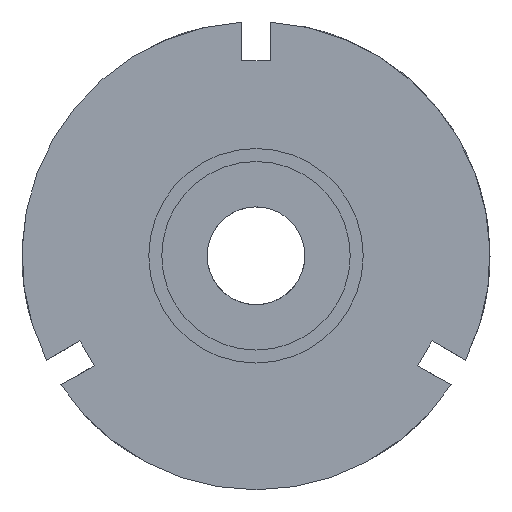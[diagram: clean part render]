
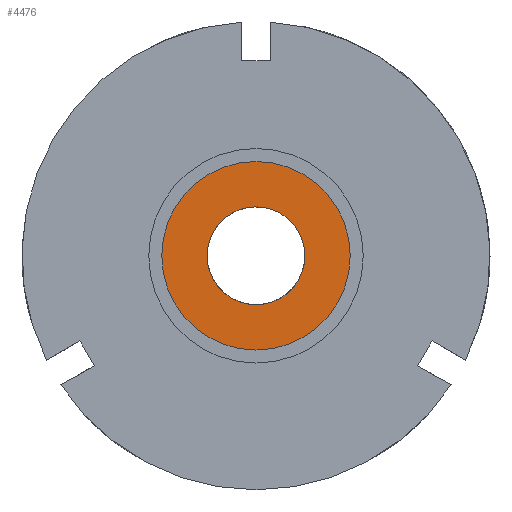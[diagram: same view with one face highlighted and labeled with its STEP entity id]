
A CAD part, left-side view. The second image highlights one B-rep face of the part: STEP entity #4476.
In plain terms, the highlighted planar face has unit normal (-1, 0, 0).
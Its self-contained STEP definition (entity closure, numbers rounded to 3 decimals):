
#1469 = CYLINDRICAL_SURFACE('',#1470,7.525);
#1470 = AXIS2_PLACEMENT_3D('',#1471,#1472,#1473);
#1471 = CARTESIAN_POINT('',(24.5,0.,0.));
#1472 = DIRECTION('',(-1.,-0.,-0.));
#1473 = DIRECTION('',(0.,1.,0.));
#3886 = EDGE_CURVE('',#3887,#3887,#3889,.T.);
#3887 = VERTEX_POINT('',#3888);
#3888 = CARTESIAN_POINT('',(34.5,7.525,0.));
#3889 = SURFACE_CURVE('',#3890,(#3895,#3902),.PCURVE_S1.);
#3890 = CIRCLE('',#3891,7.525);
#3891 = AXIS2_PLACEMENT_3D('',#3892,#3893,#3894);
#3892 = CARTESIAN_POINT('',(34.5,0.,0.));
#3893 = DIRECTION('',(-1.,0.,0.));
#3894 = DIRECTION('',(0.,1.,0.));
#3895 = PCURVE('',#1469,#3896);
#3896 = DEFINITIONAL_REPRESENTATION('',(#3897),#3901);
#3897 = LINE('',#3898,#3899);
#3898 = CARTESIAN_POINT('',(-6.283,-10.));
#3899 = VECTOR('',#3900,1.);
#3900 = DIRECTION('',(1.,-0.));
#3901 = ( GEOMETRIC_REPRESENTATION_CONTEXT(2) 
PARAMETRIC_REPRESENTATION_CONTEXT() REPRESENTATION_CONTEXT('2D SPACE',''
  ) );
#3902 = PCURVE('',#3903,#3908);
#3903 = PLANE('',#3904);
#3904 = AXIS2_PLACEMENT_3D('',#3905,#3906,#3907);
#3905 = CARTESIAN_POINT('',(34.5,0.,0.)
  );
#3906 = DIRECTION('',(1.,0.,0.));
#3907 = DIRECTION('',(-0.,0.,1.));
#3908 = DEFINITIONAL_REPRESENTATION('',(#3909),#3917);
#3909 = ( BOUNDED_CURVE() B_SPLINE_CURVE(2,(#3910,#3911,#3912,#3913,
#3914,#3915,#3916),.UNSPECIFIED.,.T.,.F.) B_SPLINE_CURVE_WITH_KNOTS((1,2
    ,2,2,2,1),(-2.094,0.,2.094,4.189,
6.283,8.378),.UNSPECIFIED.) CURVE() 
GEOMETRIC_REPRESENTATION_ITEM() RATIONAL_B_SPLINE_CURVE((1.,0.5,1.,0.5,
1.,0.5,1.)) REPRESENTATION_ITEM('') );
#3910 = CARTESIAN_POINT('',(0.,-7.525));
#3911 = CARTESIAN_POINT('',(-13.034,-7.525));
#3912 = CARTESIAN_POINT('',(-6.517,3.763));
#3913 = CARTESIAN_POINT('',(0.,15.05));
#3914 = CARTESIAN_POINT('',(6.517,3.763));
#3915 = CARTESIAN_POINT('',(13.034,-7.525));
#3916 = CARTESIAN_POINT('',(0.,-7.525));
#3917 = ( GEOMETRIC_REPRESENTATION_CONTEXT(2) 
PARAMETRIC_REPRESENTATION_CONTEXT() REPRESENTATION_CONTEXT('2D SPACE',''
  ) );
#4465 = CYLINDRICAL_SURFACE('',#4466,14.5);
#4466 = AXIS2_PLACEMENT_3D('',#4467,#4468,#4469);
#4467 = CARTESIAN_POINT('',(29.,0.,0.));
#4468 = DIRECTION('',(-1.,-0.,-0.));
#4469 = DIRECTION('',(0.,1.,0.));
#4476 = ADVANCED_FACE('',(#4477,#4507),#3903,.F.);
#4477 = FACE_BOUND('',#4478,.F.);
#4478 = EDGE_LOOP('',(#4479));
#4479 = ORIENTED_EDGE('',*,*,#4480,.F.);
#4480 = EDGE_CURVE('',#4481,#4481,#4483,.T.);
#4481 = VERTEX_POINT('',#4482);
#4482 = CARTESIAN_POINT('',(34.5,14.5,0.));
#4483 = SURFACE_CURVE('',#4484,(#4489,#4500),.PCURVE_S1.);
#4484 = CIRCLE('',#4485,14.5);
#4485 = AXIS2_PLACEMENT_3D('',#4486,#4487,#4488);
#4486 = CARTESIAN_POINT('',(34.5,0.,0.)
  );
#4487 = DIRECTION('',(-1.,0.,0.));
#4488 = DIRECTION('',(0.,1.,0.));
#4489 = PCURVE('',#3903,#4490);
#4490 = DEFINITIONAL_REPRESENTATION('',(#4491),#4499);
#4491 = ( BOUNDED_CURVE() B_SPLINE_CURVE(2,(#4492,#4493,#4494,#4495,
#4496,#4497,#4498),.UNSPECIFIED.,.T.,.F.) B_SPLINE_CURVE_WITH_KNOTS((1,2
    ,2,2,2,1),(-2.094,0.,2.094,4.189,
6.283,8.378),.UNSPECIFIED.) CURVE() 
GEOMETRIC_REPRESENTATION_ITEM() RATIONAL_B_SPLINE_CURVE((1.,0.5,1.,0.5,
1.,0.5,1.)) REPRESENTATION_ITEM('') );
#4492 = CARTESIAN_POINT('',(0.,-14.5));
#4493 = CARTESIAN_POINT('',(-25.115,-14.5));
#4494 = CARTESIAN_POINT('',(-12.557,7.25));
#4495 = CARTESIAN_POINT('',(0.,29.));
#4496 = CARTESIAN_POINT('',(12.557,7.25));
#4497 = CARTESIAN_POINT('',(25.115,-14.5));
#4498 = CARTESIAN_POINT('',(0.,-14.5));
#4499 = ( GEOMETRIC_REPRESENTATION_CONTEXT(2) 
PARAMETRIC_REPRESENTATION_CONTEXT() REPRESENTATION_CONTEXT('2D SPACE',''
  ) );
#4500 = PCURVE('',#4465,#4501);
#4501 = DEFINITIONAL_REPRESENTATION('',(#4502),#4506);
#4502 = LINE('',#4503,#4504);
#4503 = CARTESIAN_POINT('',(-6.283,-5.5));
#4504 = VECTOR('',#4505,1.);
#4505 = DIRECTION('',(1.,-0.));
#4506 = ( GEOMETRIC_REPRESENTATION_CONTEXT(2) 
PARAMETRIC_REPRESENTATION_CONTEXT() REPRESENTATION_CONTEXT('2D SPACE',''
  ) );
#4507 = FACE_BOUND('',#4508,.F.);
#4508 = EDGE_LOOP('',(#4509));
#4509 = ORIENTED_EDGE('',*,*,#3886,.T.);
